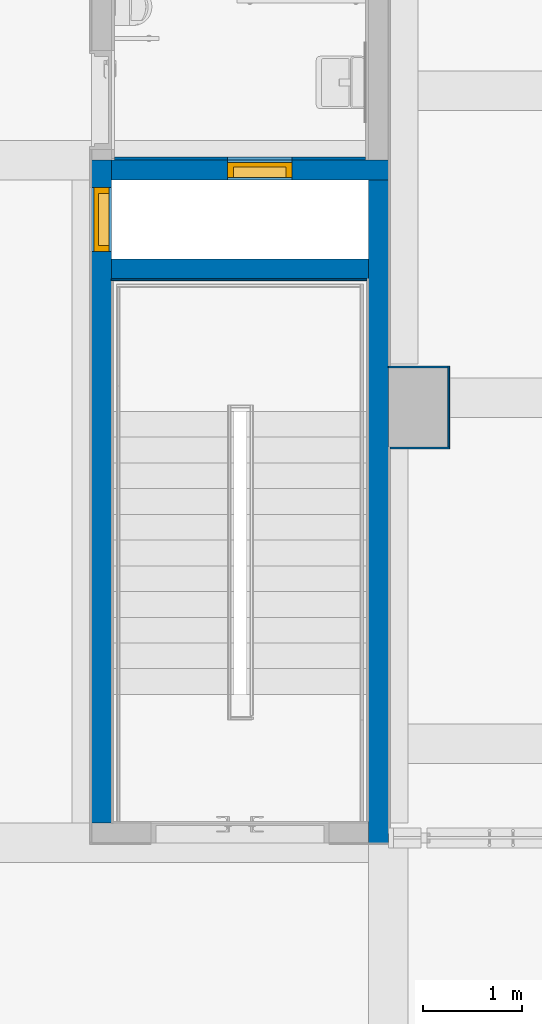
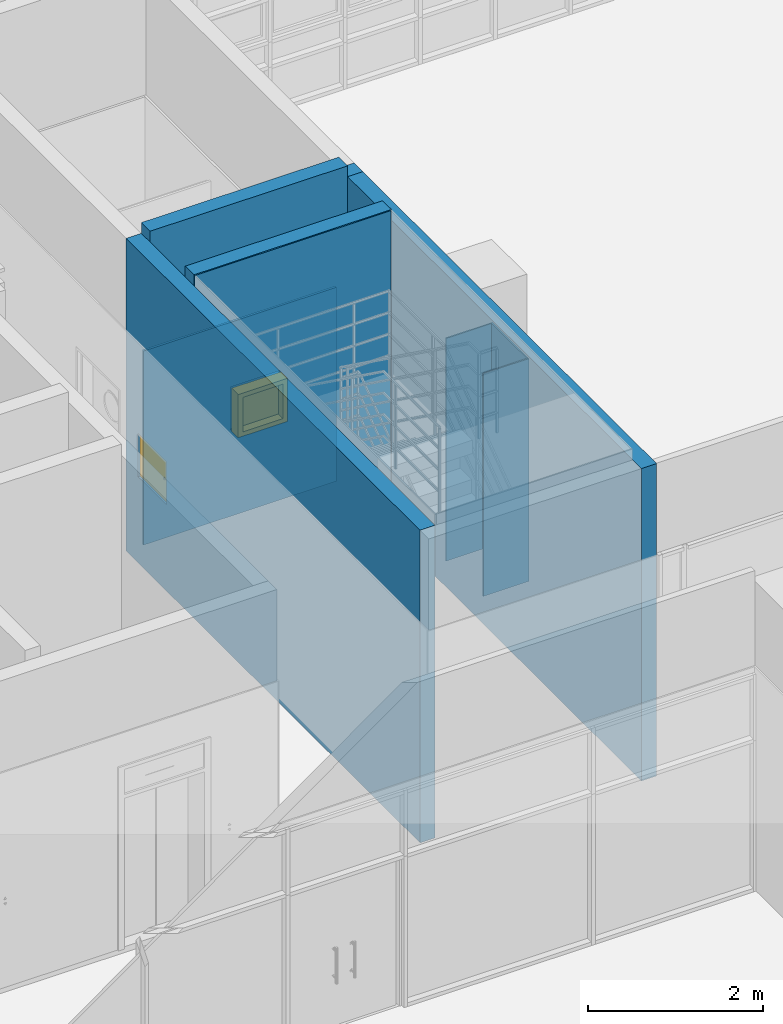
# One storey, part 56 of 74: 9 walls, 2 doors, 3 openings.
"""IFC2X3 building model written with IfcOpenShell, lengths in millimetres."""

from ifc_helpers import new_model, entity, si_unit, converted_unit, derived_unit, direction, frame, frame_2d, origin, place, context, subcontext, project, spatial, polyline, rectangle, extrude, clip, bounded_halfspace, faceted_brep, source, transform, mapped, material, material_list, layer, layer_set, layer_usage, type_object, type_shapes, element, fill, save


model = new_model("IFC2X3")

# Units and contexts
model_context = context("Model", 3, precision=0.01, world=origin(), true_north=direction((6.123031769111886e-17, 1.0)))
body_context = subcontext(model_context, "Body", "Model", "MODEL_VIEW")
ifc_project = project(units=[si_unit("LENGTHUNIT", "METRE", prefix="MILLI"), si_unit("AREAUNIT", "SQUARE_METRE"), si_unit("VOLUMEUNIT", "CUBIC_METRE"), converted_unit("PLANEANGLEUNIT", "DEGREE", entity("IfcRatioMeasure", 0.017453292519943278), si_unit("PLANEANGLEUNIT", "RADIAN"), dimensions=[0, 0, 0, 0, 0, 0, 0]), si_unit("MASSUNIT", "GRAM", prefix="KILO"), derived_unit("MASSDENSITYUNIT", [(si_unit("MASSUNIT", "GRAM", prefix="KILO"), 1), (si_unit("LENGTHUNIT", "METRE"), -3)]), derived_unit("MOMENTOFINERTIAUNIT", [(si_unit("LENGTHUNIT", "METRE"), 4)]), si_unit("TIMEUNIT", "SECOND"), si_unit("FREQUENCYUNIT", "HERTZ"), si_unit("THERMODYNAMICTEMPERATUREUNIT", "DEGREE_CELSIUS"), derived_unit("THERMALTRANSMITTANCEUNIT", [(si_unit("MASSUNIT", "GRAM", prefix="KILO"), 1), (si_unit("THERMODYNAMICTEMPERATUREUNIT", "KELVIN"), -1), (si_unit("TIMEUNIT", "SECOND"), -3)]), derived_unit("VOLUMETRICFLOWRATEUNIT", [(si_unit("LENGTHUNIT", "METRE"), 3), (si_unit("TIMEUNIT", "SECOND"), -1)]), derived_unit("MASSFLOWRATEUNIT", [(si_unit("MASSUNIT", "GRAM", prefix="KILO"), 1), (si_unit("TIMEUNIT", "SECOND"), -1)]), derived_unit("ROTATIONALFREQUENCYUNIT", [(si_unit("TIMEUNIT", "SECOND"), -1)]), si_unit("ELECTRICCURRENTUNIT", "AMPERE"), si_unit("ELECTRICVOLTAGEUNIT", "VOLT"), si_unit("POWERUNIT", "WATT"), si_unit("FORCEUNIT", "NEWTON", prefix="KILO"), si_unit("ILLUMINANCEUNIT", "LUX"), si_unit("LUMINOUSFLUXUNIT", "LUMEN"), si_unit("LUMINOUSINTENSITYUNIT", "CANDELA"), derived_unit("USERDEFINED", [(si_unit("MASSUNIT", "GRAM", prefix="KILO"), -1), (si_unit("LENGTHUNIT", "METRE"), -2), (si_unit("TIMEUNIT", "SECOND"), 3), (si_unit("LUMINOUSFLUXUNIT", "LUMEN"), 1)]), derived_unit("SOUNDPOWERUNIT", [(si_unit("MASSUNIT", "GRAM", prefix="KILO"), 1), (si_unit("LENGTHUNIT", "METRE"), 2), (si_unit("TIMEUNIT", "SECOND"), -3)]), derived_unit("SOUNDPRESSUREUNIT", [(si_unit("MASSUNIT", "GRAM", prefix="KILO"), 1), (si_unit("LENGTHUNIT", "METRE"), -1), (si_unit("TIMEUNIT", "SECOND"), -2)]), derived_unit("LINEARVELOCITYUNIT", [(si_unit("LENGTHUNIT", "METRE"), 1), (si_unit("TIMEUNIT", "SECOND"), -1)]), si_unit("PRESSUREUNIT", "PASCAL"), derived_unit("USERDEFINED", [(si_unit("LENGTHUNIT", "METRE"), -2), (si_unit("MASSUNIT", "GRAM", prefix="KILO"), 1), (si_unit("TIMEUNIT", "SECOND"), -2)]), derived_unit("LINEARFORCEUNIT", [(si_unit("MASSUNIT", "GRAM", prefix="KILO"), 1), (si_unit("LENGTHUNIT", "METRE"), 1), (si_unit("TIMEUNIT", "SECOND"), -2), (si_unit("LENGTHUNIT", "METRE"), -1)]), derived_unit("PLANARFORCEUNIT", [(si_unit("MASSUNIT", "GRAM", prefix="KILO"), 1), (si_unit("LENGTHUNIT", "METRE"), 1), (si_unit("TIMEUNIT", "SECOND"), -2), (si_unit("LENGTHUNIT", "METRE"), -2)])], contexts=[model_context])

# Site, building, storey
site_placement = place(None, frame((-14167.972527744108, -657.2125860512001, 0.0)))
site = spatial("IfcSite", under=ifc_project, at=site_placement, Name="Default", CompositionType="ELEMENT")
building_placement = place(site_placement, origin())
building = spatial("IfcBuilding", under=site, at=building_placement, Name="Sample Building", CompositionType="ELEMENT")
storey_placement = place(building_placement, frame((0.0, 0.0, 4800.0)))
storey = spatial("IfcBuildingStorey", under=building, at=storey_placement, Name="지상 2층", CompositionType="ELEMENT", Elevation=4800.000000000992)

# Wall, opening, door
ifc_material_1 = material(Name="KBIMS-콘크리트")
ifc_layer_1 = layer(ifc_material_1, 200.0)
ifc_layer_set_1 = layer_set([ifc_layer_1], Name="기본 벽:WA111-철근콘크리트구조 벽 200mm_CW1")
ifc_layer_usage_1 = layer_usage(ifc_layer_set_1, "AXIS2", "NEGATIVE", 100.0)
wall_type_1 = type_object("IfcWallType", Name="기본 벽:WA111-철근콘크리트구조 벽 200mm_CW1", PredefinedType="STANDARD", material=ifc_layer_set_1)
wall_1_placement = place(storey_placement, frame((38067.96379814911, 22457.212298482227, -1.9340006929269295e-09), z_axis=(0.0, 0.0, 1.0), x_axis=(0.0, -1.0, 0.0)))
wall_1 = element("IfcWallStandardCase", 1, at=wall_1_placement, inside=storey, type_object=wall_type_1, material=ifc_layer_usage_1, Name="기본 벽:WA111-철근콘크리트구조 벽 200mm_CW1", ObjectType="기본 벽:WA111-철근콘크리트구조 벽 200mm_CW1", context=body_context, shape_type="Clipping", body=[
    clip(extrude(rectangle(XDim=6700.000003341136, YDim=199.99999999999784, at=frame_2d((3350.000001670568, 0.0), x_axis=(-1.0, 0.0))), origin(), (0.0, 0.0, 1.0), 4350.000000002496), bounded_halfspace(frame((0.0, -100.0, 4350.0), z_axis=(0.0, 0.0, -1.0), x_axis=(0.0, 1.0, 0.0)), True, frame((0.0, -100.0, 4350.0), z_axis=(0.0, 0.0, -1.0), x_axis=(0.0, 1.0, 0.0)), polyline([(0.0, 0.0), (30480.0, 0.0), (60960.0, 0.0), (60960.0, 2011680.0046911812), (60960.0, 2042160.0), (0.0, 2042160.0), (0.0, 61112.381608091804), (0.0, 60960.05639630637), (0.0, 0.0)]))),
])
opening_1_placement = place(wall_1_placement, frame((925.0346247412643, 100.0, 1200.0)))
opening_1 = element("IfcOpeningElement", 2, at=opening_1_placement, cuts=wall_1, Name="DR872-샤프트 점검구(스테인리스 스틸):DR872-샤프트 점검구(스테인리스 스틸)_650x600:1", ObjectType="Opening", context=body_context, shape_type="SweptSolid", body=[
    extrude(rectangle(XDim=600.0, YDim=649.9999999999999, at=frame_2d((300.0, 324.99999999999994), x_axis=(1.0, 0.0))), frame((0.0, 0.0, 0.0), z_axis=(0.0, -1.0, 0.0), x_axis=(0.0, 0.0, 1.0)), (0.0, 0.0, 1.0), 200.0),
])
ifc_material_2 = material(Name="KBIMS-스테인리스 스틸_도금")
ifc_material_list = material_list([ifc_material_2, ifc_material_2, ifc_material_2, ifc_material_2])
door_style = type_object("IfcDoorStyle", Name="DR872-샤프트 점검구(스테인리스 스틸):DR872-샤프트 점검구(스테인리스 스틸)_650x600", ConstructionType="NOTDEFINED", OperationType="SINGLE_SWING_LEFT", ParameterTakesPrecedence=False, Sizeable=False, material=ifc_material_list)
shared_shape = source(origin(), body_context, "Body", "Brep", [
    faceted_brep([(105.0, 125.0, 282.67949192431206), (109.1421356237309, 125.0, 285.85786437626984), (102.50000000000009, 125.0, 287.0096189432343), (98.8822856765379, 125.0, 285.51111260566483), (100.17638090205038, 125.0, 280.6814834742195), (105.6066017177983, 125.0, 289.39339828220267), (112.32050807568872, 125.0, 290.0), (107.99038105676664, 125.0, 292.50000000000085), (109.48888739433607, 125.0, 296.1177143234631), (114.31851652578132, 125.0, 294.82361909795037), (110.0, 125.0, 300.0), (115.0, 125.0, 300.0), (109.48888739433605, 125.0, 303.8822856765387), (114.31851652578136, 125.0, 305.17638090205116), (107.9903810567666, 125.0, 307.5000000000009), (112.32050807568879, 125.0, 310.0), (105.60660171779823, 125.0, 310.6066017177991), (109.14213562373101, 125.0, 314.1421356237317), (102.50000000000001, 125.0, 312.9903810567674), (105.0, 125.0, 317.32050807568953), (98.8822856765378, 125.0, 314.48888739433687), (100.17638090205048, 125.0, 319.3185165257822), (95.0, 125.0, 315.0), (95.0, 125.0, 320.0), (91.11771432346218, 125.0, 314.48888739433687), (89.82361909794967, 125.0, 319.31851652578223), (87.5, 125.0, 312.9903810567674), (85.0, 125.0, 317.32050807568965), (84.39339828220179, 125.0, 310.6066017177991), (80.85786437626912, 125.0, 314.14213562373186), (82.00961894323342, 125.0, 307.5000000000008), (77.6794919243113, 125.0, 310.0), (75.68148347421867, 125.0, 305.17638090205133), (80.51111260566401, 125.0, 303.88228567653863), (75.0, 125.0, 300.0), (80.0, 125.0, 300.0), (75.68148347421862, 125.0, 294.8236190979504), (80.51111260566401, 125.0, 296.1177143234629), (77.67949192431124, 125.0, 290.0), (82.00961894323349, 125.0, 292.50000000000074), (80.85786437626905, 125.0, 285.8578643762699), (84.39339828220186, 125.0, 289.39339828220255), (85.0, 125.0, 282.67949192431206), (87.50000000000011, 125.0, 287.0096189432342), (89.82361909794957, 125.0, 280.6814834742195), (91.11771432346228, 125.0, 285.5111126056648), (95.0, 125.0, 280.0), (95.0, 125.0, 285.0), (105.0, 130.0, 317.32050807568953), (109.14213562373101, 130.0, 314.1421356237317), (102.50000000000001, 130.0, 312.9903810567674), (98.8822856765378, 130.0, 314.48888739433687), (100.17638090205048, 130.0, 319.3185165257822), (105.60660171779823, 130.0, 310.6066017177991), (112.32050807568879, 130.0, 310.0), (107.9903810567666, 130.0, 307.5000000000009), (109.48888739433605, 130.0, 303.8822856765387), (114.31851652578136, 130.0, 305.17638090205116), (110.0, 130.0, 300.0), (115.0, 130.0, 300.0), (109.48888739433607, 130.0, 296.1177143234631), (114.31851652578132, 130.0, 294.82361909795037), (107.99038105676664, 130.0, 292.50000000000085), (112.32050807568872, 130.0, 290.0), (105.6066017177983, 130.0, 289.39339828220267), (109.1421356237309, 130.0, 285.85786437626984), (102.50000000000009, 130.0, 287.0096189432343), (105.0, 130.0, 282.67949192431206), (98.8822856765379, 130.0, 285.51111260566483), (100.17638090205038, 130.0, 280.6814834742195), (95.0, 130.0, 285.0), (95.0, 130.0, 280.0), (91.11771432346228, 130.0, 285.5111126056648), (89.82361909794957, 130.0, 280.6814834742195), (87.50000000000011, 130.0, 287.0096189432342), (85.0, 130.0, 282.67949192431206), (84.39339828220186, 130.0, 289.39339828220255), (80.85786437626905, 130.0, 285.8578643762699), (82.00961894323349, 130.0, 292.50000000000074), (77.67949192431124, 130.0, 290.0), (75.68148347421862, 130.0, 294.8236190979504), (80.51111260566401, 130.0, 296.1177143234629), (75.0, 130.0, 300.0), (80.0, 130.0, 300.0), (75.68148347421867, 130.0, 305.17638090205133), (80.51111260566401, 130.0, 303.88228567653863), (77.6794919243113, 130.0, 310.0), (82.00961894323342, 130.0, 307.5000000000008), (80.85786437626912, 130.0, 314.14213562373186), (84.39339828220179, 130.0, 310.6066017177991), (85.0, 130.0, 317.32050807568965), (87.5, 130.0, 312.9903810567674), (89.82361909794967, 130.0, 319.31851652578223), (91.11771432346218, 130.0, 314.48888739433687), (95.0, 130.0, 320.0), (95.0, 130.0, 315.0)], [[[0, 1, 2]], [[0, 2, 3]], [[3, 4, 0]], [[2, 1, 5]], [[6, 5, 1]], [[7, 5, 6]], [[8, 7, 6]], [[8, 6, 9]], [[8, 9, 10]], [[10, 9, 11]], [[12, 10, 11]], [[12, 11, 13]], [[14, 12, 13]], [[14, 13, 15]], [[16, 14, 15]], [[15, 17, 16]], [[17, 18, 16]], [[18, 17, 19]], [[18, 19, 20]], [[21, 20, 19]], [[20, 21, 22]], [[22, 21, 23]], [[23, 24, 22]], [[24, 23, 25]], [[24, 25, 26]], [[27, 26, 25]], [[27, 28, 26]], [[27, 29, 28]], [[30, 28, 29]], [[31, 30, 29]], [[32, 30, 31]], [[33, 30, 32]], [[33, 32, 34]], [[34, 35, 33]], [[36, 35, 34]], [[36, 37, 35]], [[37, 36, 38]], [[39, 37, 38]], [[39, 38, 40]], [[39, 40, 41]], [[40, 42, 41]], [[41, 42, 43]], [[43, 42, 44]], [[44, 45, 43]], [[46, 45, 44]], [[4, 47, 46]], [[45, 46, 47]], [[4, 3, 47]], [[48, 49, 50]], [[48, 50, 51]], [[51, 52, 48]], [[50, 49, 53]], [[54, 53, 49]], [[55, 53, 54]], [[56, 55, 54]], [[56, 54, 57]], [[56, 57, 58]], [[58, 57, 59]], [[60, 58, 59]], [[60, 59, 61]], [[62, 60, 61]], [[62, 61, 63]], [[64, 62, 63]], [[63, 65, 64]], [[65, 66, 64]], [[66, 65, 67]], [[66, 67, 68]], [[69, 68, 67]], [[68, 69, 70]], [[70, 69, 71]], [[71, 72, 70]], [[72, 71, 73]], [[72, 73, 74]], [[75, 74, 73]], [[75, 76, 74]], [[75, 77, 76]], [[78, 76, 77]], [[79, 78, 77]], [[80, 78, 79]], [[81, 78, 80]], [[81, 80, 82]], [[82, 83, 81]], [[84, 83, 82]], [[84, 85, 83]], [[85, 84, 86]], [[87, 85, 86]], [[87, 86, 88]], [[87, 88, 89]], [[88, 90, 89]], [[89, 90, 91]], [[91, 90, 92]], [[92, 93, 91]], [[94, 93, 92]], [[52, 95, 94]], [[93, 94, 95]], [[52, 51, 95]], [[10, 58, 60, 8]], [[8, 60, 62, 7]], [[2, 5, 64, 66]], [[62, 64, 5, 7]], [[3, 2, 66, 68]], [[70, 47, 3, 68]], [[45, 72, 74, 43]], [[43, 74, 76, 41]], [[37, 39, 78, 81]], [[76, 78, 39, 41]], [[35, 37, 81, 83]], [[45, 47, 70, 72]], [[35, 83, 85, 33]], [[33, 85, 87, 30]], [[26, 28, 89, 91]], [[87, 89, 28, 30]], [[24, 26, 91, 93]], [[95, 22, 24, 93]], [[20, 51, 50, 18]], [[18, 50, 53, 16]], [[12, 14, 55, 56]], [[53, 55, 14, 16]], [[10, 12, 56, 58]], [[20, 22, 95, 51]], [[57, 13, 11, 59]], [[54, 15, 13, 57]], [[19, 17, 49, 48]], [[54, 49, 17, 15]], [[21, 19, 48, 52]], [[23, 21, 52, 94]], [[92, 25, 23, 94]], [[90, 27, 25, 92]], [[31, 29, 88, 86]], [[90, 88, 29, 27]], [[32, 31, 86, 84]], [[34, 32, 84, 82]], [[80, 36, 34, 82]], [[79, 38, 36, 80]], [[42, 40, 77, 75]], [[79, 77, 40, 38]], [[44, 42, 75, 73]], [[46, 44, 73, 71]], [[69, 4, 46, 71]], [[67, 0, 4, 69]], [[6, 1, 65, 63]], [[67, 65, 1, 0]], [[9, 6, 63, 61]], [[11, 9, 61, 59]]]),
    faceted_brep([(85.0, 180.0, 282.67949192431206), (80.85786437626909, 180.0, 285.85786437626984), (87.49999999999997, 180.0, 287.0096189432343), (91.11771432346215, 180.0, 285.51111260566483), (89.8236190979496, 180.0, 280.6814834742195), (84.39339828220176, 180.0, 289.39339828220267), (77.67949192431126, 180.0, 290.0), (82.00961894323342, 180.0, 292.50000000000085), (80.51111260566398, 180.0, 296.1177143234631), (75.68148347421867, 180.0, 294.82361909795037), (80.0, 180.0, 300.0), (75.0, 180.0, 300.0), (80.51111260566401, 180.0, 303.8822856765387), (75.68148347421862, 180.0, 305.17638090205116), (82.00961894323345, 180.0, 307.5000000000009), (77.6794919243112, 180.0, 310.0), (84.39339828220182, 180.0, 310.6066017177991), (80.85786437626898, 180.0, 314.1421356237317), (87.50000000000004, 180.0, 312.9903810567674), (85.0, 180.0, 317.32050807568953), (91.11771432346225, 180.0, 314.48888739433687), (89.8236190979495, 180.0, 319.3185165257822), (95.0, 180.0, 315.0), (95.0, 180.0, 320.0), (98.88228567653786, 180.0, 314.48888739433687), (100.17638090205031, 180.0, 319.31851652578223), (102.50000000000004, 180.0, 312.9903810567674), (105.0, 180.0, 317.32050807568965), (105.60660171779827, 180.0, 310.6066017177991), (109.14213562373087, 180.0, 314.14213562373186), (107.99038105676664, 180.0, 307.5000000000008), (112.32050807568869, 180.0, 310.0), (114.31851652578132, 180.0, 305.17638090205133), (109.48888739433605, 180.0, 303.88228567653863), (115.0, 180.0, 300.0), (110.0, 180.0, 300.0), (114.31851652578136, 180.0, 294.8236190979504), (109.48888739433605, 180.0, 296.1177143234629), (112.32050807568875, 180.0, 290.0), (107.99038105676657, 180.0, 292.50000000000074), (109.14213562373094, 180.0, 285.8578643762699), (105.6066017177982, 180.0, 289.39339828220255), (105.0, 180.0, 282.67949192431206), (102.49999999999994, 180.0, 287.0096189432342), (100.17638090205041, 180.0, 280.6814834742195), (98.88228567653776, 180.0, 285.5111126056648), (95.0, 180.0, 280.0), (95.0, 180.0, 285.0), (85.0, 175.0, 317.32050807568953), (80.85786437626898, 175.0, 314.1421356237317), (87.50000000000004, 175.0, 312.9903810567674), (91.11771432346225, 175.0, 314.48888739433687), (89.8236190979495, 175.0, 319.3185165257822), (84.39339828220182, 175.0, 310.6066017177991), (77.6794919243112, 175.0, 310.0), (82.00961894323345, 175.0, 307.5000000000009), (80.51111260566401, 175.0, 303.8822856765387), (75.68148347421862, 175.0, 305.17638090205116), (80.0, 175.0, 300.0), (75.0, 175.0, 300.0), (80.51111260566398, 175.0, 296.1177143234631), (75.68148347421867, 175.0, 294.82361909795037), (82.00961894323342, 175.0, 292.50000000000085), (77.67949192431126, 175.0, 290.0), (84.39339828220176, 175.0, 289.39339828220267), (80.85786437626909, 175.0, 285.85786437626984), (87.49999999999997, 175.0, 287.0096189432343), (85.0, 175.0, 282.67949192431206), (91.11771432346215, 175.0, 285.51111260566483), (89.8236190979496, 175.0, 280.6814834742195), (95.0, 175.0, 285.0), (95.0, 175.0, 280.0), (98.88228567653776, 175.0, 285.5111126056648), (100.17638090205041, 175.0, 280.6814834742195), (102.49999999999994, 175.0, 287.0096189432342), (105.0, 175.0, 282.67949192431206), (105.6066017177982, 175.0, 289.39339828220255), (109.14213562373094, 175.0, 285.8578643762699), (107.99038105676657, 175.0, 292.50000000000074), (112.32050807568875, 175.0, 290.0), (114.31851652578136, 175.0, 294.8236190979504), (109.48888739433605, 175.0, 296.1177143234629), (115.0, 175.0, 300.0), (110.0, 175.0, 300.0), (114.31851652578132, 175.0, 305.17638090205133), (109.48888739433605, 175.0, 303.88228567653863), (112.32050807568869, 175.0, 310.0), (107.99038105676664, 175.0, 307.5000000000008), (109.14213562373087, 175.0, 314.14213562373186), (105.60660171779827, 175.0, 310.6066017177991), (105.0, 175.0, 317.32050807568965), (102.50000000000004, 175.0, 312.9903810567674), (100.17638090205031, 175.0, 319.31851652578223), (98.88228567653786, 175.0, 314.48888739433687), (95.0, 175.0, 320.0), (95.0, 175.0, 315.0)], [[[0, 1, 2]], [[0, 2, 3]], [[3, 4, 0]], [[2, 1, 5]], [[6, 5, 1]], [[7, 5, 6]], [[8, 7, 6]], [[8, 6, 9]], [[8, 9, 10]], [[10, 9, 11]], [[12, 10, 11]], [[12, 11, 13]], [[14, 12, 13]], [[14, 13, 15]], [[16, 14, 15]], [[15, 17, 16]], [[17, 18, 16]], [[18, 17, 19]], [[18, 19, 20]], [[21, 20, 19]], [[20, 21, 22]], [[22, 21, 23]], [[23, 24, 22]], [[24, 23, 25]], [[24, 25, 26]], [[27, 26, 25]], [[27, 28, 26]], [[27, 29, 28]], [[30, 28, 29]], [[31, 30, 29]], [[32, 30, 31]], [[33, 30, 32]], [[33, 32, 34]], [[34, 35, 33]], [[36, 35, 34]], [[36, 37, 35]], [[37, 36, 38]], [[39, 37, 38]], [[39, 38, 40]], [[39, 40, 41]], [[40, 42, 41]], [[41, 42, 43]], [[43, 42, 44]], [[44, 45, 43]], [[46, 45, 44]], [[4, 47, 46]], [[45, 46, 47]], [[4, 3, 47]], [[48, 49, 50]], [[48, 50, 51]], [[51, 52, 48]], [[50, 49, 53]], [[54, 53, 49]], [[55, 53, 54]], [[56, 55, 54]], [[56, 54, 57]], [[56, 57, 58]], [[58, 57, 59]], [[60, 58, 59]], [[60, 59, 61]], [[62, 60, 61]], [[62, 61, 63]], [[64, 62, 63]], [[63, 65, 64]], [[65, 66, 64]], [[66, 65, 67]], [[66, 67, 68]], [[69, 68, 67]], [[68, 69, 70]], [[70, 69, 71]], [[71, 72, 70]], [[72, 71, 73]], [[72, 73, 74]], [[75, 74, 73]], [[75, 76, 74]], [[75, 77, 76]], [[78, 76, 77]], [[79, 78, 77]], [[80, 78, 79]], [[81, 78, 80]], [[81, 80, 82]], [[82, 83, 81]], [[84, 83, 82]], [[84, 85, 83]], [[85, 84, 86]], [[87, 85, 86]], [[87, 86, 88]], [[87, 88, 89]], [[88, 90, 89]], [[89, 90, 91]], [[91, 90, 92]], [[92, 93, 91]], [[94, 93, 92]], [[52, 95, 94]], [[93, 94, 95]], [[52, 51, 95]], [[35, 83, 85, 33]], [[33, 85, 87, 30]], [[26, 28, 89, 91]], [[87, 89, 28, 30]], [[24, 26, 91, 93]], [[95, 22, 24, 93]], [[20, 51, 50, 18]], [[18, 50, 53, 16]], [[12, 14, 55, 56]], [[53, 55, 14, 16]], [[10, 12, 56, 58]], [[20, 22, 95, 51]], [[10, 58, 60, 8]], [[8, 60, 62, 7]], [[2, 5, 64, 66]], [[62, 64, 5, 7]], [[3, 2, 66, 68]], [[70, 47, 3, 68]], [[45, 72, 74, 43]], [[43, 74, 76, 41]], [[37, 39, 78, 81]], [[76, 78, 39, 41]], [[35, 37, 81, 83]], [[45, 47, 70, 72]], [[80, 36, 34, 82]], [[79, 38, 36, 80]], [[42, 40, 77, 75]], [[79, 77, 40, 38]], [[44, 42, 75, 73]], [[46, 44, 73, 71]], [[69, 4, 46, 71]], [[67, 0, 4, 69]], [[6, 1, 65, 63]], [[67, 65, 1, 0]], [[9, 6, 63, 61]], [[11, 9, 61, 59]], [[57, 13, 11, 59]], [[54, 15, 13, 57]], [[19, 17, 49, 48]], [[54, 49, 17, 15]], [[21, 19, 48, 52]], [[23, 21, 52, 94]], [[92, 25, 23, 94]], [[90, 27, 25, 92]], [[31, 29, 88, 86]], [[90, 88, 29, 27]], [[32, 31, 86, 84]], [[34, 32, 84, 82]]]),
    faceted_brep([(620.0, 175.0, 570.0), (30.0, 175.0, 570.0), (30.0, 130.0, 570.0), (620.0, 130.0, 570.0), (620.0, 175.0, 30.0), (620.0, 130.0, 30.0), (30.0, 130.0, 30.0), (30.0, 175.0, 30.0)], [[[0, 1, 2, 3]], [[4, 5, 6, 7]], [[1, 0, 4, 7]], [[2, 1, 7, 6]], [[3, 2, 6, 5]], [[0, 3, 5, 4]]]),
    faceted_brep([(30.0, 130.0, 570.0), (30.0, 175.0, 570.0), (620.0, 175.0, 570.0), (620.0, 130.0, 570.0), (60.0, 25.0, 540.0), (60.0, 130.0, 540.0), (590.0, 130.0, 540.0), (590.0, 25.0, 540.0), (0.0, 175.0, 600.0), (0.0, 25.0, 600.0), (650.0, 25.0, 600.0), (650.0, 175.0, 600.0), (620.0, 175.0, 30.0), (620.0, 130.0, 30.0), (590.0, 130.0, 60.0), (590.0, 25.0, 60.0), (650.0, 25.0, 0.0), (650.0, 175.0, 0.0), (30.0, 175.0, 30.0), (30.0, 130.0, 30.0), (60.0, 130.0, 60.0), (60.0, 25.0, 60.0), (0.0, 25.0, 0.0), (0.0, 175.0, 0.0)], [[[0, 1, 2, 3]], [[4, 5, 6, 7]], [[8, 9, 10, 11]], [[3, 2, 12, 13]], [[7, 6, 14, 15]], [[11, 10, 16, 17]], [[13, 12, 18, 19]], [[15, 14, 20, 21]], [[17, 16, 22, 23]], [[19, 18, 1, 0]], [[3, 13, 19, 0], [5, 20, 14, 6]], [[21, 20, 5, 4]], [[7, 15, 21, 4], [9, 22, 16, 10]], [[23, 22, 9, 8]], [[11, 17, 23, 8], [1, 18, 12, 2]]], outer=[[True], [True], [True], [True], [True], [True], [True], [True], [True], [True], [True, False], [True], [False, True], [True], [True, False]]),
])
type_shapes(door_style, [shared_shape])
door_1_placement = place(opening_1_placement, frame((0.0, 0.0, 1.9335857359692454e-09), z_axis=(0.0, 0.0, 1.0), x_axis=(-1.0, 0.0, 0.0)))
door_1 = element("IfcDoor", 3, at=door_1_placement, inside=storey, type_object=door_style, material=ifc_material_2, Name="DR872-샤프트 점검구(스테인리스 스틸):DR872-샤프트 점검구(스테인리스 스틸)_650x600", ObjectType="DR872-샤프트 점검구(스테인리스 스틸):DR872-샤프트 점검구(스테인리스 스틸)_650x600", OverallHeight=600.0, OverallWidth=649.9999999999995, context=body_context, shape_type="MappedRepresentation", body=[
    mapped(shared_shape, transform((0.0, 0.0, 0.0), scale=1.0)),
])
fill(opening_1, door_1)

ifc_layer_usage_2 = layer_usage(ifc_layer_set_1, "AXIS2", "NEGATIVE", 100.0)
wall_2_placement = place(storey_placement, frame((40967.963798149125, 22357.21229848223, -1.9340006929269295e-09), z_axis=(0.0, 0.0, 1.0), x_axis=(-1.0, 0.0, 0.0)))
wall_2 = element("IfcWallStandardCase", 4, at=wall_2_placement, inside=storey, type_object=wall_type_1, material=ifc_layer_usage_2, Name="기본 벽:WA111-철근콘크리트구조 벽 200mm_CW1", ObjectType="기본 벽:WA111-철근콘크리트구조 벽 200mm_CW1", context=body_context, shape_type="Clipping", body=[
    clip(clip(extrude(rectangle(XDim=2800.000000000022, YDim=200.00000000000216, at=frame_2d((1400.000000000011, -1.8260948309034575e-12), x_axis=(-1.0, 0.0))), origin(), (0.0, 0.0, 1.0), 4500.000000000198), bounded_halfspace(frame((200.00869298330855, -100.0, 4350.0), z_axis=(0.0, 0.0, -1.0), x_axis=(0.0, 1.0, 0.0)), True, frame((200.00869298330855, -100.0, 4350.0), z_axis=(0.0, 0.0, -1.0), x_axis=(0.0, 1.0, 0.0)), polyline([(0.0, 2.633532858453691e-09), (0.0, -60962.64962131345), (60960.0, -60962.64962131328), (60960.0, 2.8098442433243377e-09), (0.0, 2.633532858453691e-09)]))), bounded_halfspace(frame((200.00869298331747, 100.0, 4350.0), z_axis=(1.0, 0.0, 0.0), x_axis=(0.0, 0.0, 1.0)), True, frame((200.00869298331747, 100.0, 4350.0), z_axis=(1.0, 0.0, 0.0), x_axis=(0.0, 0.0, 1.0)), polyline([(0.0, 0.0), (45720.0, 0.0), (45720.0, 60960.0), (0.0, 60960.0), (0.0, 0.0)]))),
])
opening_2_placement = place(wall_2_placement, frame((1624.991397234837, 100.0, 1200.0)))
opening_2 = element("IfcOpeningElement", 5, at=opening_2_placement, cuts=wall_2, Name="DR872-샤프트 점검구(스테인리스 스틸):DR872-샤프트 점검구(스테인리스 스틸)_650x600:1", ObjectType="Opening", context=body_context, shape_type="SweptSolid", body=[
    extrude(rectangle(XDim=600.0, YDim=649.9999999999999, at=frame_2d((300.0, 324.99999999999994), x_axis=(1.0, 0.0))), frame((0.0, 0.0, 0.0), z_axis=(0.0, -1.0, 0.0), x_axis=(0.0, 0.0, 1.0)), (0.0, 0.0, 1.0), 200.0),
])
door_2_placement = place(opening_2_placement, frame((0.0, 0.0, 1.9335857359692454e-09), z_axis=(0.0, 0.0, 1.0), x_axis=(-1.0, 0.0, 0.0)))
door_2 = element("IfcDoor", 6, at=door_2_placement, inside=storey, type_object=door_style, material=ifc_material_2, Name="DR872-샤프트 점검구(스테인리스 스틸):DR872-샤프트 점검구(스테인리스 스틸)_650x600", ObjectType="DR872-샤프트 점검구(스테인리스 스틸):DR872-샤프트 점검구(스테인리스 스틸)_650x600", OverallHeight=600.0, OverallWidth=649.9999999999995, context=body_context, shape_type="MappedRepresentation", body=[
    mapped(shared_shape, transform((0.0, 0.0, 0.0), scale=1.0)),
])
fill(opening_2, door_2)

# Walls
ifc_layer_usage_3 = layer_usage(ifc_layer_set_1, "AXIS2", "NEGATIVE", 100.0)
wall_3_placement = place(storey_placement, frame((40867.96379814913, 15557.212295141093, -1.9340006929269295e-09), z_axis=(0.0, 0.0, 1.0), x_axis=(0.0, 1.0, 0.0)))
element("IfcWallStandardCase", 7, at=wall_3_placement, inside=storey, type_object=wall_type_1, material=ifc_layer_usage_3, Name="기본 벽:WA111-철근콘크리트구조 벽 200mm_CW1", ObjectType="기본 벽:WA111-철근콘크리트구조 벽 200mm_CW1", context=body_context, shape_type="Clipping", body=[
    clip(extrude(rectangle(XDim=6700.000003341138, YDim=199.99999999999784, at=frame_2d((3350.000001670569, 4.334310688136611e-12), x_axis=(-1.0, 0.0))), origin(), (0.0, 0.0, 1.0), 4350.000000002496), bounded_halfspace(frame((6700.0, -100.0, 4350.0), z_axis=(0.0, 0.0, -1.0), x_axis=(-1.0, 0.0, 0.0)), True, frame((6700.0, -100.0, 4350.0), z_axis=(0.0, 0.0, -1.0), x_axis=(-1.0, 0.0, 0.0)), polyline([(0.0, 0.0), (579119.9029037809, 1.5463342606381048e-09), (822959.902903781, 2.1960545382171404e-09), (2042160.0, 5.444655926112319e-09), (2042160.0, 60960.0), (1981200.0, 60960.0), (0.0, 60960.0), (0.0, 0.0)]))),
])
ifc_layer_usage_4 = layer_usage(ifc_layer_set_1, "AXIS2", "NEGATIVE", 100.0)
wall_4_placement = place(storey_placement, frame((38167.9637981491, 21357.212291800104, -1.9340006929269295e-09)))
element("IfcWallStandardCase", 8, at=wall_4_placement, inside=storey, type_object=wall_type_1, material=ifc_layer_usage_4, Name="기본 벽:WA111-철근콘크리트구조 벽 200mm_CW1", ObjectType="기본 벽:WA111-철근콘크리트구조 벽 200mm_CW1", context=body_context, shape_type="SweptSolid", body=[
    extrude(rectangle(XDim=2600.000000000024, YDim=199.99999999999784, at=frame_2d((1300.000000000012, -1.6342482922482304e-13), x_axis=(-1.0, 0.0))), origin(), (0.0, 0.0, 1.0), 4500.000000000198),
])
ifc_material_3 = material(Name="WA611-수성페인트 (내부) 벽 (3회)")
ifc_layer_2 = layer(ifc_material_3, 1.0)
ifc_material_4 = material(Name="WA551-시멘트모르타르 (내부) 벽 18mm")
ifc_layer_3 = layer(ifc_material_4, 16.0)
ifc_material_5 = material(Name="WA555-콘크리트면정리 벽 (내부)")
ifc_layer_4 = layer(ifc_material_5, 1.0)
ifc_layer_set_2 = layer_set([ifc_layer_2, ifc_layer_3, ifc_layer_4], Name="기본 벽:A1-32-06A-콘크리트면정리, 시멘트모르타르(미장용), 수성페인트(내부) (18mm)")
ifc_layer_usage_5 = layer_usage(ifc_layer_set_2, "AXIS2", "POSITIVE", -9.000000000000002)
wall_type_2 = type_object("IfcWallType", Name="기본 벽:A1-32-06A-콘크리트면정리, 시멘트모르타르(미장용), 수성페인트(내부) (18mm)", PredefinedType="STANDARD", material=ifc_layer_set_2)
wall_5_placement = place(storey_placement, frame((38167.963798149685, 21248.2122918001, 0.0)))
element("IfcWallStandardCase", 9, at=wall_5_placement, inside=storey, type_object=wall_type_2, material=ifc_layer_usage_5, Name="기본 벽:A1-32-06A-콘크리트면정리, 시멘트모르타르(미장용), 수성페인트(내부) (18mm)", ObjectType="기본 벽:A1-32-06A-콘크리트면정리, 시멘트모르타르(미장용), 수성페인트(내부) (18mm)", context=body_context, shape_type="SweptSolid", body=[
    extrude(rectangle(XDim=2582.0086732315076, YDim=18.00000000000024, at=frame_2d((1291.0043366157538, -2.1662671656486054e-12), x_axis=(-1.0, 0.0))), origin(), (0.0, 0.0, 1.0), 4500.000000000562),
])
ifc_layer_usage_6 = layer_usage(ifc_layer_set_2, "AXIS2", "POSITIVE", -9.000000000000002)
wall_6_placement = place(storey_placement, frame((40985.963798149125, 19548.212307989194, 80.0)))
element("IfcWallStandardCase", 10, at=wall_6_placement, inside=storey, type_object=wall_type_2, material=ifc_layer_usage_6, Name="기본 벽:A1-32-06A-콘크리트면정리, 시멘트모르타르(미장용), 수성페인트(내부) (18mm)", ObjectType="기본 벽:A1-32-06A-콘크리트면정리, 시멘트모르타르(미장용), 수성페인트(내부) (18mm)", context=body_context, shape_type="SweptSolid", body=[
    extrude(rectangle(XDim=600.0086732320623, YDim=18.00000000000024, at=frame_2d((300.00433661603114, -2.1662671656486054e-12), x_axis=(-1.0, 0.0))), origin(), (0.0, 0.0, 1.0), 3100.0000000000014),
])
ifc_layer_usage_7 = layer_usage(ifc_layer_set_2, "AXIS2", "POSITIVE", -9.000000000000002)
wall_7_placement = place(storey_placement, frame((41576.97247138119, 19557.212307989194, 80.0), z_axis=(0.0, 0.0, 1.0), x_axis=(0.0, 1.0, 0.0)))
element("IfcWallStandardCase", 11, at=wall_7_placement, inside=storey, type_object=wall_type_2, material=ifc_layer_usage_7, Name="기본 벽:A1-32-06A-콘크리트면정리, 시멘트모르타르(미장용), 수성페인트(내부) (18mm)", ObjectType="기본 벽:A1-32-06A-콘크리트면정리, 시멘트모르타르(미장용), 수성페인트(내부) (18mm)", context=body_context, shape_type="SweptSolid", body=[
    extrude(rectangle(XDim=818.0000000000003, YDim=17.999999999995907, at=frame_2d((409.00000000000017, 0.0), x_axis=(-1.0, 0.0))), origin(), (0.0, 0.0, 1.0), 3100.0000000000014),
])
ifc_layer_usage_8 = layer_usage(ifc_layer_set_2, "AXIS2", "POSITIVE", -9.000000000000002)
wall_8_placement = place(storey_placement, frame((41567.97247138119, 20366.21230798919, 80.0), z_axis=(0.0, 0.0, 1.0), x_axis=(-1.0, 0.0, 0.0)))
element("IfcWallStandardCase", 12, at=wall_8_placement, inside=storey, type_object=wall_type_2, material=ifc_layer_usage_8, Name="기본 벽:A1-32-06A-콘크리트면정리, 시멘트모르타르(미장용), 수성페인트(내부) (18mm)", ObjectType="기본 벽:A1-32-06A-콘크리트면정리, 시멘트모르타르(미장용), 수성페인트(내부) (18mm)", context=body_context, shape_type="SweptSolid", body=[
    extrude(rectangle(XDim=600.0086732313, YDim=18.00000000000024, at=frame_2d((300.00433661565, -2.1662671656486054e-12), x_axis=(-1.0, 0.0))), origin(), (0.0, 0.0, 1.0), 3100.0000000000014),
])

# Wall, opening
ifc_material_6 = material(Name="WA352-도기질타일 벽 200x200")
ifc_layer_5 = layer(ifc_material_6, 8.0)
ifc_material_7 = material(Name="WA551-시멘트모르타르 (내부) 벽 22mm")
ifc_layer_6 = layer(ifc_material_7, 22.0)
ifc_layer_set_3 = layer_set([ifc_layer_5, ifc_layer_6], Name="기본 벽:A1-33-01B-시멘트 모르타르, 도기질타일 (30mm)")
ifc_layer_usage_9 = layer_usage(ifc_layer_set_3, "AXIS2", "NEGATIVE", 15.0)
wall_type_3 = type_object("IfcWallType", Name="기본 벽:A1-33-01B-시멘트 모르타르, 도기질타일 (30mm)", PredefinedType="STANDARD", material=ifc_layer_set_3)
wall_9_placement = place(storey_placement, frame((40737.96379815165, 22472.27751121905, 0.0), z_axis=(0.0, 0.0, 1.0), x_axis=(-1.0, 0.0, 0.0)))
wall_9 = element("IfcWallStandardCase", 13, at=wall_9_placement, inside=storey, type_object=wall_type_3, material=ifc_layer_usage_9, Name="기본 벽:A1-33-01B-시멘트 모르타르, 도기질타일 (30mm)", ObjectType="기본 벽:A1-33-01B-시멘트 모르타르, 도기질타일 (30mm)", context=body_context, shape_type="SweptSolid", body=[
    extrude(rectangle(XDim=2540.000000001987, YDim=30.000000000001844, at=frame_2d((1270.0000000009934, 0.0), x_axis=(-1.0, 0.0))), origin(), (0.0, 0.0, 1.0), 2700.000000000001),
])
opening_3_placement = place(wall_9_placement, origin())
element("IfcOpeningElement", 14, at=opening_3_placement, cuts=wall_9, Name="기본 벽:A1-33-01B-시멘트 모르타르, 도기질타일 (30mm)", ObjectType="Opening", context=body_context, shape_type="SweptSolid", body=[
    extrude(rectangle(XDim=600.0, YDim=649.9999999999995, at=frame_2d((0.0, -4.348521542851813e-12), x_axis=(1.0, 0.0))), frame((1069.991397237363, -1308.934787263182, 1500.0), z_axis=(0.0, 1.0, 0.0), x_axis=(0.0, 0.0, 1.0)), (0.0, 0.0, 1.0), 3048.0),
])

save(model, "model.ifc")
